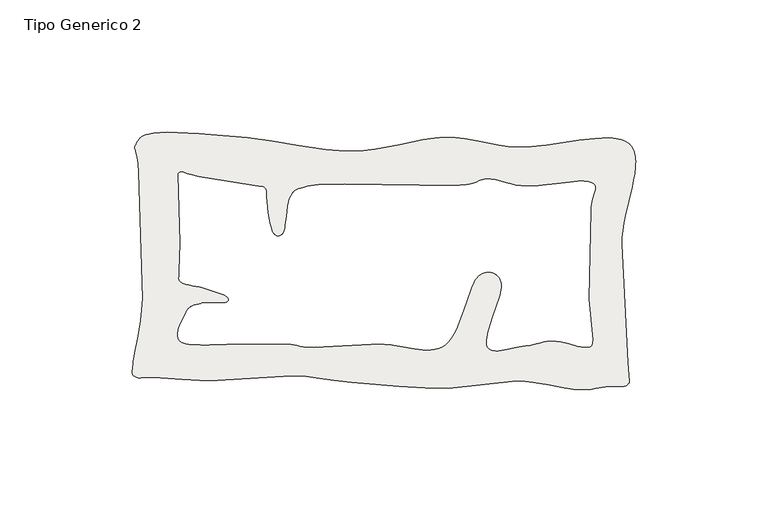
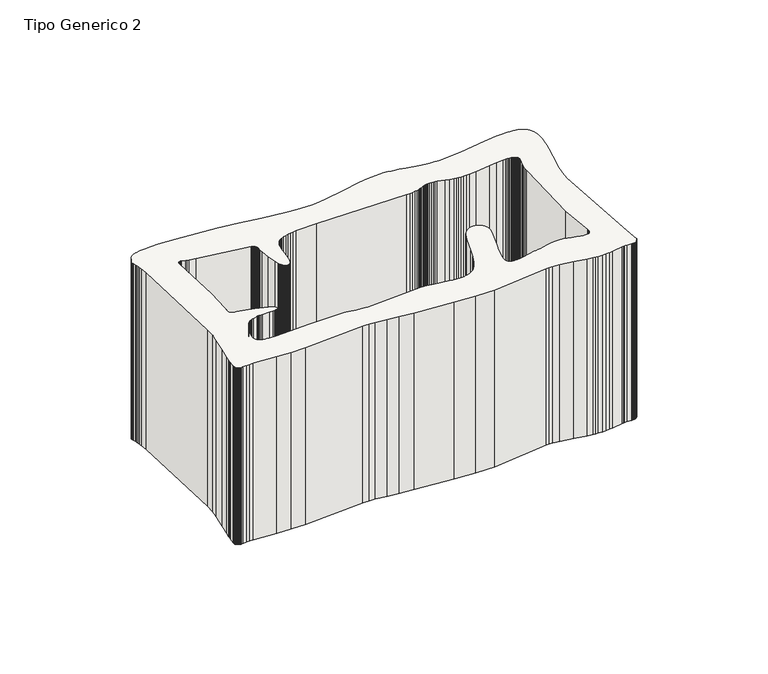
"""IFC4 building model written with IfcOpenShell, lengths in millimetres: slab geometry, Tipo Generico 2."""

from ifc_helpers import new_model, si_unit, frame, origin, place, context, project, spatial, polyline, outline, extrude, source, transform, mapped, element, save


def tipo_generico_2_deec6a79(model_context):
    return source(origin(), model_context, "Body", "SweptSolid", [
        extrude(outline(polyline([(-2062.3125941, -484.1455564), (-2062.3196146, -483.8131427), (-2062.3089325, -483.3984843), (-2062.1044655, -480.6890209), (-2061.997348, -479.7293946), (-2061.8410988, -478.7001892), (-2061.4108007, -476.4247987), (-2060.2764615, -470.9488766), (-2059.1561631, -464.130031), (-2058.7429535, -460.1760209), (-2058.5036956, -455.8371064), (-2059.9654882, -408.099565), (-2060.1806372, -404.9622061), (-2060.3240708, -403.7368869), (-2060.4821509, -402.7101236), (-2060.647557, -401.8591399), (-2060.8135714, -401.1611288), (-2061.1187467, -400.133027), (-2061.3418301, -399.4435218), (-2061.3778435, -399.3027226), (-2061.4046971, -399.168825), (-2061.4141567, -399.1035953), (-2061.4208716, -399.0390107), (-2061.4248388, -398.9747713), (-2061.4260612, -398.9104555), (-2061.4239248, -398.8457577), (-2061.4187352, -398.7802591), (-2061.4104951, -398.7136937), (-2061.3985935, -398.6456399), (-2061.3833359, -398.5757553), (-2061.3644138, -398.5036579), (-2061.3155849, -398.3515655), (-2061.2508899, -398.186465), (-2061.1694064, -398.0054957), (-2060.9539518, -397.5846205), (-2060.4626204, -396.6994571), (-2060.2129861, -396.2919324), (-2059.9471773, -395.9080213), (-2059.8052717, -395.7249552), (-2059.6557345, -395.5478399), (-2059.4970433, -395.3766725), (-2059.3279756, -395.2114957), (-2059.1476175, -395.0523488), (-2058.9544409, -394.8991868), (-2058.7472263, -394.7520548), (-2058.5247541, -394.6110264), (-2058.2858018, -394.476062), (-2058.0288443, -394.3471616), (-2057.7532703, -394.2244044), (-2057.457249, -394.1077509), (-2057.1398665, -393.9972774), (-2056.7995947, -393.8929075), (-2056.0458106, -393.7028209), (-2055.1861313, -393.5376073), (-2054.2104833, -393.3973797), (-2051.8710062, -393.1925675), (-2048.9501686, -393.1092561), (-2045.4910015, -393.1552214), (-2037.3595921, -393.5617925), (-2019.0646109, -395.1187614), (-2009.5962261, -396.4138519), (-1999.5556377, -398.1186404), (-1989.431735, -399.6009935), (-1984.4915505, -400.0612352), (-1979.7137188, -400.2288145), (-1977.3759196, -400.1709475), (-1975.0411709, -400.0118346), (-1970.3913624, -399.446193), (-1961.251195, -397.7194321), (-1952.474797, -395.9494506), (-1948.279851, -395.3298668), (-1946.2406651, -395.1356603), (-1944.2440518, -395.0373176), (-1942.3249547, -395.034304), (-1940.5056491, -395.1098734), (-1938.7701161, -395.253955), (-1937.1023285, -395.4564752), (-1933.9057669, -395.9962931), (-1930.7877856, -396.6485682), (-1924.2741125, -397.967196), (-1920.6219216, -398.4719174), (-1918.6410243, -398.6502551), (-1916.5353127, -398.7658023), (-1915.4137919, -398.7830463), (-1914.2262009, -398.7567247), (-1911.6747779, -398.5894114), (-1906.0174281, -397.908449), (-1893.6947372, -396.0611437), (-1887.720616, -395.4088686), (-1884.9316132, -395.2629958), (-1883.6054726, -395.2492238), (-1882.3322781, -395.2802371), (-1881.1172223, -395.3600029), (-1879.9657946, -395.4926017), (-1878.8833347, -395.6820402), (-1878.3697252, -395.7993022), (-1877.8753406, -395.9323226), (-1877.4009448, -396.0815146), (-1876.9471463, -396.2474159), (-1876.5147147, -396.4305584), (-1876.1040999, -396.6314401), (-1875.7163744, -396.8505196), (-1875.3518409, -397.0883287), (-1875.1785004, -397.2144022), (-1875.0112635, -397.3453626), (-1874.8502859, -397.481241), (-1874.6954091, -397.6221194), (-1874.4036606, -397.9175662), (-1874.1346487, -398.2299911), (-1873.8876063, -398.5591225), (-1873.6620837, -398.9044679), (-1873.4574611, -399.2657557), (-1873.2732886, -399.6425728), (-1873.1087993, -400.0346079), (-1872.9635349, -400.4414083), (-1872.8367341, -400.8626287), (-1872.7282442, -401.2979607), (-1872.6369984, -401.7469516), (-1872.5628409, -402.209293), (-1872.5048552, -402.6846027), (-1872.462741, -403.1725017), (-1872.4232217, -404.1846186), (-1872.4398546, -405.2426641), (-1872.5080612, -406.343698), (-1872.7802763, -408.6629571), (-1873.203404, -411.1188613), (-1873.7402083, -413.6877547), (-1876.2905616, -424.6215908), (-1876.8446072, -427.4015896), (-1877.2918437, -430.1530935), (-1877.5951882, -432.8524125), (-1877.6815528, -434.1751207), (-1877.7180217, -435.4759696), (-1875.3422285, -480.1126209), (-1875.01325, -484.8801129), (-1874.7605624, -486.9080452), (-1874.7353868, -487.1477615), (-1874.7309612, -487.2422501), (-1874.7309612, -487.2843274), (-1874.7324864, -487.323428), (-1874.7355396, -487.3598573), (-1874.740268, -487.3939605), (-1874.74683, -487.4260802), (-1874.75507, -487.4565219), (-1874.7598012, -487.4712476), (-1874.7651409, -487.4856676), (-1874.7770425, -487.5138201), (-1874.7909277, -487.5413218), (-1874.8067966, -487.5684839), (-1874.824649, -487.5956827), (-1874.8446379, -487.623224), (-1874.8911776, -487.6807514), (-1875.0115691, -487.8147226), (-1875.1714828, -487.9918775), (-1875.3744246, -488.2336538), (-1875.4319492, -488.3021631), (-1875.4917629, -488.3671665), (-1875.5538687, -488.4287347), (-1875.6181081, -488.4869469), (-1875.6846367, -488.5419191), (-1875.7534517, -488.593722), (-1875.8242531, -488.6424349), (-1875.8971909, -488.6881739), (-1875.9724151, -488.7309756), (-1876.0494729, -488.7709533), (-1876.12882, -488.8081466), (-1876.209995, -488.8427451), (-1876.3784515, -488.9042765), (-1876.5545396, -488.9561954), (-1876.7384065, -488.9992236), (-1876.9294467, -489.0340145), (-1877.12766, -489.0612897), (-1877.3327382, -489.0816974), (-1877.7628835, -489.1047763), (-1878.2182044, -489.1087067), (-1880.2566262, -489.0432081), (-1881.3824198, -489.0387061), (-1881.9660695, -489.0627385), (-1882.5613124, -489.1116807), (-1887.6104481, -489.9404994), (-1889.0897876, -490.1354304), (-1890.7232398, -490.2710428), (-1892.5440707, -490.3201774), (-1894.5863069, -490.2556324), (-1895.7020297, -490.1626293), (-1896.8821447, -490.0192353), (-1899.413426, -489.6120161), (-1905.0140124, -488.530971), (-1911.0503894, -487.5043577), (-1914.1264066, -487.1651951), (-1915.6605258, -487.0660884), (-1917.1848798, -487.0241271), (-1943.1542715, -489.9109378), (-1951.8423184, -489.6828939), (-1961.5583539, -489.0419489), (-1979.5757804, -487.5109197), (-1986.1306508, -486.8119521), (-1991.5499623, -486.0474123), (-1996.7010231, -485.4122257), (-1999.446995, -485.2041339), (-2002.451144, -485.101442), (-2030.2892815, -486.8420514), (-2036.9671354, -486.7381371), (-2043.6166105, -486.3950073), (-2054.3105804, -485.6996645), (-2056.0217017, -485.6568996), (-2057.3510483, -485.6810084), (-2059.133885, -485.8030044), (-2059.7219575, -485.8374501), (-2059.8489111, -485.8379085), (-2059.969761, -485.8341309), (-2060.0857269, -485.8255852), (-2060.1980313, -485.811816), (-2060.3072852, -485.7923224), (-2060.4147083, -485.7666119), (-2060.521823, -485.734147), (-2060.6289405, -485.6944749), (-2060.7375832, -485.6470579), (-2060.8486679, -485.5914774), (-2060.9631087, -485.5271248), (-2061.0824306, -485.4536154), (-2061.2008414, -485.380488), (-2061.3125345, -485.316707), (-2061.5170014, -485.2115731), (-2061.8505584, -485.0509746), (-2061.9189178, -485.0128645), (-2061.9509611, -484.9931445), (-2061.9814792, -484.9726972), (-2062.0107777, -484.9514095), (-2062.0385482, -484.9290947), (-2062.065099, -484.9055574), (-2062.0898163, -484.880611), (-2062.1136195, -484.8540601), (-2062.1358976, -484.8257916), (-2062.1569561, -484.7955423), (-2062.1764865, -484.7632302), (-2062.1947974, -484.7285949), (-2062.2115831, -484.6915148), (-2062.2274519, -484.6517663), (-2062.2417955, -484.6091938), (-2062.2549168, -484.5636076), (-2062.2668184, -484.5148579), (-2062.2869601, -484.4070924), (-2062.3022205, -484.284488), (-2062.3125941, -484.1455564)]), holes=[polyline([(-2013.5394022, -413.6066535), (-2013.6452981, -413.5955146), (-2037.2918436, -409.7385123), (-2040.1708719, -409.1612723), (-2041.0955545, -408.9363196), (-2041.7660257, -408.7455085), (-2043.2375833, -408.1988623), (-2043.3248636, -408.172808), (-2043.4130594, -408.1516745), (-2043.5015604, -408.1353095), (-2043.5900613, -408.1236365), (-2043.6785623, -408.1165793), (-2043.7667581, -408.1140235), (-2043.8540384, -408.1158545), (-2043.940098, -408.1220343), (-2044.0249368, -408.1324103), (-2044.1082498, -408.1469062), (-2044.1897317, -408.1654456), (-2044.2687723, -408.187876), (-2044.3453714, -408.2141593), (-2044.4195291, -408.244181), (-2044.4903299, -408.2778266), (-2044.5580789, -408.3150199), (-2044.6218606, -408.3556464), (-2044.6819803, -408.3996299), (-2044.7103616, -408.4228614), (-2044.7378274, -408.4468558), (-2044.7640726, -408.4716513), (-2044.7894022, -408.497248), (-2044.8132059, -408.5235694), (-2044.836094, -408.5506919), (-2044.8574564, -408.5785392), (-2044.877598, -408.6071112), (-2044.8965189, -408.63637), (-2044.9139139, -408.6663535), (-2044.929783, -408.6970237), (-2044.9444314, -408.7283805), (-2044.957554, -408.7604239), (-2044.9691507, -408.7931159), (-2044.9792215, -408.8264563), (-2044.9877664, -408.8604071), (-2044.9947855, -408.8949683), (-2044.9999734, -408.9301398), (-2045.0036356, -408.9659217), (-2045.0051614, -409.0022757), (-2045.0054666, -409.0392402), (-2045.0036356, -409.0767386), (-2044.9999734, -409.1147712), (-2044.9944803, -409.1533378), (-2044.9871561, -409.1924384), (-2044.9780008, -409.232035), (-2044.9667093, -409.2721656), (-2044.9532815, -409.3127539), (-2044.2364236, -434.9226859), (-2044.5745584, -445.6092551), (-2044.5705911, -446.0539725), (-2044.5858499, -446.4584449), (-2044.6511575, -447.1604255), (-2044.7271463, -447.743006), (-2044.7555276, -447.998133), (-2044.7707864, -448.2338431), (-2044.7713968, -448.3454993), (-2044.7668191, -448.4535697), (-2044.756138, -448.558512), (-2044.7482034, -448.6099341), (-2044.738743, -448.6607459), (-2044.7271463, -448.7109855), (-2044.7137186, -448.7607291), (-2044.6984598, -448.810015), (-2044.6807596, -448.8588813), (-2044.6612283, -448.9074042), (-2044.6392557, -448.955622), (-2044.6148416, -449.003649), (-2044.5879861, -449.0514472), (-2044.5586893, -449.0990928), (-2044.5266458, -449.1467002), (-2044.4921609, -449.1942695), (-2044.4546243, -449.2418769), (-2044.3710062, -449.3373587), (-2044.2754861, -449.4336417), (-2044.1668436, -449.5311454), (-2044.0450784, -449.6302512), (-2043.90897, -449.7314551), (-2043.757908, -449.8351386), (-2043.5906717, -449.9377539), (-2043.4066507, -450.0356009), (-2043.2070657, -450.1290229), (-2042.9925272, -450.2183249), (-2042.5222513, -450.3858283), (-2042.0025369, -450.5406669), (-2040.8425638, -450.8224585), (-2039.5681497, -451.0841086), (-2036.8948099, -451.6281226), (-2035.6063577, -451.9511512), (-2034.9981424, -452.1342948), (-2034.4234964, -452.3352912), (-2028.8931009, -454.0923026), (-2028.2381937, -454.3451789), (-2027.6379129, -454.6111396), (-2027.3626443, -454.7495749), (-2027.1062967, -454.8919394), (-2026.870701, -455.038462), (-2026.6573831, -455.1893332), (-2026.5597269, -455.2664664), (-2026.4681741, -455.344744), (-2026.3833353, -455.4242423), (-2026.3049051, -455.5049613), (-2026.2337991, -455.5869391), (-2026.169407, -455.6701758), (-2026.1126443, -455.7547477), (-2026.0870096, -455.7975104), (-2026.0632059, -455.8406165), (-2026.0415384, -455.8840659), (-2026.021702, -455.9278586), (-2026.0040018, -455.9719947), (-2025.9881326, -456.016474), (-2025.9743997, -456.0612967), (-2025.962803, -456.1065009), (-2025.9533426, -456.1520484), (-2025.9460184, -456.1979773), (-2025.9408304, -456.2442496), (-2025.9377786, -456.2909034), (-2025.9368631, -456.3379386), (-2025.938389, -456.3853553), (-2025.9420511, -456.4331153), (-2025.9481546, -456.4812949), (-2025.9563943, -456.5298179), (-2025.9673807, -456.5787604), (-2025.9801981, -456.6272071), (-2025.995762, -456.6742804), (-2026.0137674, -456.7199424), (-2026.033909, -456.7643073), (-2026.0561868, -456.8072989), (-2026.0809061, -456.8489936), (-2026.1077615, -456.8893912), (-2026.1370584, -456.92853), (-2026.1681863, -456.96641), (-2026.2017557, -457.003031), (-2026.2371561, -457.0384314), (-2026.2746927, -457.0726493), (-2026.3143655, -457.1056846), (-2026.3561746, -457.1375373), (-2026.3998147, -457.1682074), (-2026.4452859, -457.1978095), (-2026.5420267, -457.2536185), (-2026.6460916, -457.3051169), (-2026.7574808, -457.3524573), (-2026.8755838, -457.3957541), (-2027.0007059, -457.4351981), (-2027.1319314, -457.4709037), (-2027.412388, -457.5317099), (-2027.7154275, -457.5792792), (-2028.039219, -457.614794), (-2028.7399026, -457.6543143), (-2030.2981302, -457.6395133), (-2033.5928079, -457.4928763), (-2034.3594095, -457.4857047), (-2035.0707742, -457.5087455), (-2035.4009744, -457.5344947), (-2035.7113382, -457.5712684), (-2035.9994241, -457.6202109), (-2036.1349222, -457.6496222), (-2036.2640115, -457.6824668), (-2038.1319925, -458.1705954), (-2038.9581033, -458.4158423), (-2039.3450662, -458.5536292), (-2039.7149393, -458.7072471), (-2040.0680276, -458.8809302), (-2040.2383157, -458.9766028), (-2040.4046365, -459.078913), (-2040.56699, -459.1883567), (-2040.7250711, -459.3054679), (-2040.8791849, -459.4307807), (-2041.0293314, -459.5648291), (-2041.1755106, -459.7081473), (-2041.3180276, -459.8612693), (-2041.4562723, -460.0246909), (-2041.59116, -460.1990226), (-2041.7217752, -460.384722), (-2041.8487283, -460.5823615), (-2041.9720193, -460.792475), (-2042.0916482, -461.0155585), (-2043.3923074, -463.5435584), (-2044.1290018, -465.160456), (-2044.4656106, -466.0091117), (-2044.7604105, -466.8663886), (-2044.9987527, -467.7184775), (-2045.0918314, -468.1383231), (-2045.1650735, -468.5517218), (-2045.2163431, -468.9569953), (-2045.2438089, -469.3523887), (-2045.2459451, -469.7362235), (-2045.2367898, -469.9232962), (-2045.2203104, -470.1067832), (-2045.1965066, -470.2865699), (-2045.1653787, -470.4623511), (-2045.1263162, -470.6339743), (-2045.079014, -470.8012107), (-2045.023472, -470.9638694), (-2044.9593851, -471.1216452), (-2044.8864481, -471.2744239), (-2044.8046609, -471.4219764), (-2044.7134134, -471.5640357), (-2044.6127054, -471.7004111), (-2044.5022317, -471.8309119), (-2044.3816873, -471.9553092), (-2044.2510721, -472.0733741), (-2044.1100809, -472.1849158), (-2043.9584085, -472.2897055), (-2043.7954446, -472.3875525), (-2043.6202737, -472.4793341), (-2043.4313699, -472.566233), (-2043.2290384, -472.6483634), (-2043.0138895, -472.7258017), (-2042.546055, -472.86706), (-2042.0309183, -472.9910376), (-2041.4715311, -473.0985358), (-2040.8709451, -473.1905082), (-2039.5574686, -473.3314231), (-2036.5664407, -473.4665015), (-2033.24918, -473.4540274), (-2020.5520364, -473.0836585), (-2005.0472757, -472.9609778), (-2003.5436746, -473.0748847), (-2002.289097, -473.2499793), (-2000.0933572, -473.6914161), (-1998.9355203, -473.9116004), (-1997.5936624, -474.1006568), (-1995.9591409, -474.2355063), (-1993.9242288, -474.293032), (-1968.7002298, -473.1399253), (-1967.1389505, -473.1721213), (-1965.5474588, -473.2987311), (-1962.3054239, -473.7536719), (-1955.8076211, -474.9017432), (-1954.2265054, -475.1197913), (-1952.6786539, -475.2695945), (-1951.172001, -475.3308585), (-1950.4365274, -475.3219321), (-1949.7143289, -475.2832129), (-1949.0063211, -475.2122214), (-1948.3135721, -475.1064017), (-1947.63715, -474.9631598), (-1946.9779703, -474.7800162), (-1946.6550943, -474.6726706), (-1946.3369485, -474.554415), (-1946.023533, -474.4248679), (-1945.7151529, -474.2837622), (-1945.4116556, -474.1307929), (-1945.1134988, -473.9656165), (-1944.8205301, -473.7878898), (-1944.5330545, -473.5973456), (-1944.2509195, -473.3905509), (-1943.9736673, -473.164759), (-1943.7012979, -472.920542), (-1943.4336587, -472.6585486), (-1943.1705972, -472.3793891), (-1942.9122659, -472.0836737), (-1942.4087259, -471.4451697), (-1941.9222757, -470.7479956), (-1941.4521524, -469.9970725), (-1940.9972879, -469.1974357), (-1940.5570718, -468.3540442), (-1939.7170755, -466.5558341), (-1938.9257547, -464.6422294), (-1937.4628946, -460.6281379), (-1934.8338052, -452.9661277), (-1934.2004129, -451.3590339), (-1933.563511, -449.9548819), (-1933.2417032, -449.341326), (-1932.9165384, -448.7934592), (-1932.7525064, -448.5456946), (-1932.5872537, -448.3162024), (-1932.4209329, -448.1056311), (-1932.2530862, -447.914553), (-1931.9120523, -447.5695517), (-1931.5635416, -447.2585013), (-1931.2087747, -446.9806769), (-1930.8485147, -446.7355063), (-1930.4841348, -446.5222266), (-1930.3005716, -446.4273932), (-1930.116398, -446.3402655), (-1929.9317667, -446.2608054), (-1929.7466775, -446.1888984), (-1929.5614358, -446.1245063), (-1929.3760416, -446.0674765), (-1929.1906473, -446.0178092), (-1929.0054056, -445.9753898), (-1928.820469, -445.9401038), (-1928.6358377, -445.911875), (-1928.4518167, -445.8906653), (-1928.2685586, -445.8763602), (-1928.0860635, -445.8688834), (-1927.9044839, -445.8681586), (-1927.7239725, -445.8741095), (-1927.5448343, -445.8865836), (-1927.3669168, -445.9055808), (-1927.1905252, -445.9309867), (-1927.0158121, -445.962725), (-1926.84293, -446.0007193), (-1926.6717264, -446.0448554), (-1926.502659, -446.095095), (-1926.3358804, -446.1513236), (-1926.1712381, -446.213465), (-1926.0090372, -446.2814429), (-1925.8494302, -446.355181), (-1925.6925699, -446.4345649), (-1925.5386087, -446.5195563), (-1925.3873941, -446.6100028), (-1925.2395364, -446.7059043), (-1925.0947305, -446.8071463), (-1924.9534341, -446.9136145), (-1924.8154947, -447.0252707), (-1924.6813699, -447.1420005), (-1924.5509073, -447.2637275), (-1924.4244119, -447.3904136), (-1924.3018838, -447.5219062), (-1924.1836282, -447.6581672), (-1924.0696451, -447.7990821), (-1923.960087, -447.9446128), (-1923.7550088, -448.2491019), (-1923.5693094, -448.5709479), (-1923.4039041, -448.9094642), (-1923.2603189, -449.2640784), (-1923.1391641, -449.6340278), (-1923.041813, -450.0187018), (-1922.9693338, -450.4174521), (-1922.9453775, -450.6281379), (-1922.9331705, -450.8542731), (-1922.9324075, -451.0954383), (-1922.9424783, -451.351023), (-1922.994053, -451.90362), (-1923.0843851, -452.5079062), (-1923.3692667, -453.8554099), (-1923.7714883, -455.3608802), (-1926.0415384, -462.3099234), (-1927.2144815, -465.8837607), (-1928.1394693, -469.1756156), (-1928.4447977, -470.6342414), (-1928.5470315, -471.3024237), (-1928.6114236, -471.9244483), (-1928.6283609, -472.2168448), (-1928.634617, -472.4961951), (-1928.6297342, -472.7619269), (-1928.6134073, -473.0135825), (-1928.5851785, -473.2506659), (-1928.5447427, -473.4725669), (-1928.5197183, -473.5777381), (-1928.4916421, -473.6789039), (-1928.4600564, -473.776026), (-1928.4252664, -473.8690665), (-1928.3874246, -473.9586356), (-1928.3469888, -474.0454963), (-1928.3036539, -474.1296103), (-1928.2577249, -474.211016), (-1928.209202, -474.2897895), (-1928.1582376, -474.3659308), (-1928.1045267, -474.4394782), (-1928.0483743, -474.5104697), (-1927.9897806, -474.5789435), (-1927.9287454, -474.6448996), (-1927.8652689, -474.7084143), (-1927.7993509, -474.7694495), (-1927.7312967, -474.8281195), (-1927.6608011, -474.8843863), (-1927.5880167, -474.9383262), (-1927.513096, -474.989939), (-1927.3566934, -475.0863746), (-1927.1918985, -475.17396), (-1927.0188638, -475.2529242), (-1926.8378946, -475.3235343), (-1926.649296, -475.3860572), (-1926.4535257, -475.4406836), (-1926.2505838, -475.4876807), (-1926.040928, -475.5273536), (-1925.602543, -475.5856421), (-1925.1405069, -475.6174949), (-1924.6571085, -475.6249335), (-1924.1549417, -475.610018), (-1923.1023904, -475.5210212), (-1922.0011636, -475.3665641), (-1917.4758646, -474.4160941), (-1915.396702, -473.9664176), (-1914.4669839, -473.804293), (-1914.0376016, -473.7459281), (-1913.6347696, -473.7053779), (-1912.8783914, -473.6295417), (-1912.1601602, -473.5287192), (-1910.8207437, -473.2692435), (-1908.3996316, -472.6385215), (-1907.243931, -472.3357108), (-1906.0755655, -472.0868018), (-1905.4751321, -471.9932654), (-1904.8577615, -471.9260123), (-1904.2185709, -471.8893912), (-1903.5531351, -471.8875602), (-1902.8516885, -471.9298652), (-1902.112095, -472.0180991), (-1901.3419839, -472.1453956), (-1900.5483743, -472.3050025), (-1897.2875711, -473.1294349), (-1894.2391702, -473.9238074), (-1893.5653421, -474.0664771), (-1892.9414102, -474.1730979), (-1892.6504251, -474.2107489), (-1892.3745462, -474.2368796), (-1892.1149942, -474.2505362), (-1891.8723794, -474.2509559), (-1890.3483316, -474.2121985), (-1890.0646707, -474.1840461), (-1889.9354288, -474.1634467), (-1889.8144266, -474.1376212), (-1889.7012064, -474.1058448), (-1889.6474954, -474.0874961), (-1889.5954629, -474.0674308), (-1889.5452615, -474.0455726), (-1889.4968912, -474.0217688), (-1889.4500467, -473.9959815), (-1889.4050333, -473.9680961), (-1889.3615457, -473.9380744), (-1889.319584, -473.905802), (-1889.2791482, -473.8712027), (-1889.2403909, -473.834162), (-1889.2028543, -473.7946418), (-1889.1669961, -473.7525275), (-1889.1323587, -473.7077048), (-1889.0990945, -473.6601737), (-1889.0670511, -473.6097815), (-1889.0362283, -473.5564521), (-1889.0067789, -473.500109), (-1888.9783975, -473.440676), (-1888.9249918, -473.3121589), (-1888.8758585, -473.170214), (-1888.8305398, -473.0141929), (-1888.7888834, -472.8433707), (-1888.7147256, -472.4547294), (-1888.5949441, -471.4701178), (-1890.1736185, -456.1122229), (-1889.4025918, -422.9201987), (-1889.3380472, -421.6035941), (-1889.2030069, -420.4054358), (-1889.0144083, -419.3183997), (-1888.7891885, -418.3353522), (-1887.8625223, -415.2975943), (-1887.709324, -414.7255423), (-1887.6562234, -414.4626716), (-1887.6365396, -414.3365958), (-1887.621586, -414.2139914), (-1887.6118204, -414.0947059), (-1887.6075479, -413.9785865), (-1887.6089212, -413.8655951), (-1887.6160928, -413.7556174), (-1887.6296731, -413.6485007), (-1887.6496622, -413.5441306), (-1887.6621744, -413.4929755), (-1887.676365, -413.4424308), (-1887.6923868, -413.3925345), (-1887.710087, -413.3432486), (-1887.7296182, -413.2945731), (-1887.7511331, -413.2465079), (-1887.7743265, -413.1989768), (-1887.7996561, -413.152056), (-1887.8268167, -413.1056311), (-1887.855961, -413.0597785), (-1887.8870889, -413.0144599), (-1887.9203531, -412.969599), (-1887.9931375, -412.8814032), (-1888.0744668, -412.7950385), (-1888.1646463, -412.7104285), (-1888.263981, -412.6274588), (-1888.3726236, -412.5460151), (-1888.4910318, -412.4659446), (-1888.6193582, -412.3871711), (-1888.757908, -412.3095801), (-1889.0665933, -412.15745), (-1889.4190713, -412.0086768), (-1889.6137735, -411.9384482), (-1889.822056, -411.8751624), (-1890.043461, -411.8185523), (-1890.2779886, -411.7684272), (-1890.78397, -411.6869834), (-1891.3369485, -411.629267), (-1891.9337198, -411.5937522), (-1892.5713846, -411.5789893), (-1893.9568826, -411.6054633), (-1897.0827981, -411.8400672), (-1900.5178567, -412.2358802), (-1907.5298807, -413.1219962), (-1910.7137796, -413.4179023), (-1912.1391031, -413.4865668), (-1913.4208414, -413.4860709), (-1914.590275, -413.4216407), (-1915.698826, -413.3110526), (-1916.7519876, -413.1611731), (-1917.755253, -412.9788306), (-1919.6334573, -412.5442984), (-1921.3769266, -412.0623877), (-1924.6333047, -411.1759284), (-1925.4310342, -411.010485), (-1926.2330362, -410.881243), (-1927.0449564, -410.7950309), (-1927.8719827, -410.7587531), (-1928.6459085, -410.7747748), (-1928.9902994, -410.8004859), (-1929.3102762, -410.8369544), (-1929.6087381, -410.8834937), (-1929.8885843, -410.9393027), (-1930.1527139, -411.0036567), (-1930.4041788, -411.0758307), (-1930.8801004, -411.2404731), (-1931.3400003, -411.4273551), (-1932.3048135, -411.8436149), (-1932.8562662, -412.0610144), (-1933.4850809, -412.2766211), (-1934.214451, -412.4844458), (-1935.0678751, -412.6784613), (-1936.0683939, -412.8526786), (-1937.2396585, -413.0011466), (-1938.6047098, -413.1178), (-1940.1871988, -413.196688), (-1982.235386, -412.6149085), (-1992.065098, -412.8937247), (-1993.5549661, -413.0378821), (-1994.8623392, -413.2274726), (-1996.0891458, -413.4702018), (-1997.3373147, -413.7738898), (-1998.5137674, -414.096308), (-1999.4805643, -414.4118979), (-1999.896824, -414.5774176), (-2000.2743265, -414.7535804), (-2000.4501077, -414.846926), (-2000.6176492, -414.9444297), (-2000.7781717, -415.0467017), (-2000.9316751, -415.1541617), (-2001.079075, -415.2673819), (-2001.2206766, -415.3868201), (-2001.3570901, -415.5130484), (-2001.4892313, -415.6465628), (-2001.6170999, -415.7878592), (-2001.7419168, -415.9374335), (-2001.8636819, -416.0958579), (-2001.9833108, -416.2635901), (-2002.2182962, -416.6291526), (-2002.4508401, -417.0381644), (-2002.9281351, -418.0031302), (-2003.047764, -418.2855323), (-2003.1594583, -418.595896), (-2003.2635232, -418.9321616), (-2003.3608743, -419.2923453), (-2003.5369607, -420.0764182), (-2003.6907693, -420.9319404), (-2004.1662332, -424.7467139), (-2004.6029397, -428.4168723), (-2004.7350809, -429.191027), (-2004.8843118, -429.8755744), (-2004.9664041, -430.1792624), (-2005.0542947, -430.4544928), (-2005.1482889, -430.699282), (-2005.1977273, -430.8096412), (-2005.2489969, -430.9116462), (-2005.3561136, -431.1007026), (-2005.4690286, -431.2769416), (-2005.5871316, -431.4403632), (-2005.7104227, -431.5909293), (-2005.8379861, -431.728678), (-2005.9698221, -431.8534949), (-2006.0372659, -431.9110968), (-2006.1053201, -431.9654181), (-2006.174595, -432.0165732), (-2006.2444803, -432.0644477), (-2006.3149759, -432.1091178), (-2006.386387, -432.1505072), (-2006.4584085, -432.1886924), (-2006.5310403, -432.223635), (-2006.6042825, -432.2553351), (-2006.6778299, -432.2837546), (-2006.7519876, -432.3089698), (-2006.8264505, -432.3308661), (-2006.9015237, -432.3495581), (-2006.9769022, -432.3649695), (-2007.0522806, -432.3771384), (-2007.1279642, -432.3860267), (-2007.2039529, -432.3916724), (-2007.2799417, -432.3940375), (-2007.3559305, -432.393122), (-2007.4322244, -432.3889258), (-2007.5082132, -432.3814872), (-2007.5845071, -432.3707297), (-2007.6601907, -432.3567298), (-2007.7361795, -432.3394111), (-2007.8115579, -432.3188117), (-2007.8869363, -432.2949317), (-2007.9620096, -432.267771), (-2008.0364725, -432.2372916), (-2008.1109354, -432.2035315), (-2008.1844827, -432.1664527), (-2008.2580301, -432.1260932), (-2008.3306619, -432.082453), (-2008.4026834, -432.035456), (-2008.4743997, -431.9851783), (-2008.6150857, -431.8746665), (-2008.75272, -431.7508796), (-2008.8869974, -431.6138556), (-2009.0170022, -431.4634803), (-2009.1430398, -431.2997535), (-2009.2641946, -431.1227134), (-2009.3804666, -430.9323218), (-2009.4909402, -430.7285025), (-2009.5956155, -430.5112937), (-2009.6981546, -430.266352), (-2009.801304, -429.9812034), (-2010.0091287, -429.3015387), (-2010.4223367, -427.5827887), (-2011.1660501, -423.3324912), (-2011.6656229, -419.1888526), (-2011.7733499, -417.6033881), (-2011.7825052, -417.0103934), (-2011.775181, -416.773577), (-2011.7590066, -416.5802863), (-2011.742222, -416.4118293), (-2011.731846, -416.2477973), (-2011.7281839, -416.0882285), (-2011.7309305, -415.9331229), (-2011.7397806, -415.7825568), (-2011.7547342, -415.6366065), (-2011.7754861, -415.4952338), (-2011.8017313, -415.3585532), (-2011.8334695, -415.2265647), (-2011.870701, -415.0993445), (-2011.9128152, -414.9769309), (-2011.9601175, -414.8593619), (-2012.0116922, -414.7467139), (-2012.0681497, -414.6389487), (-2012.1288797, -414.5362189), (-2012.193577, -414.4384864), (-2012.2625467, -414.3458274), (-2012.3351785, -414.2583182), (-2012.4111673, -414.1759589), (-2012.4908182, -414.0987876), (-2012.573826, -414.0268805), (-2012.6595804, -413.9602759), (-2012.7483865, -413.8990119), (-2012.8399393, -413.8431266), (-2012.9336282, -413.7926963), (-2013.0300638, -413.747721), (-2013.1283304, -413.708277), (-2013.2287332, -413.6744025), (-2013.3306619, -413.6461356), (-2013.4344217, -413.6235526), (-2013.5394022, -413.6066535)])]), frame((0.0, 0.0, -88.0), z_axis=(0.0, 0.0, 1.0), x_axis=(1.0, 0.0, 0.0)), (0.0, 0.0, 1.0), 88.0),
    ])


if __name__ == "__main__":
    model = new_model("IFC4")
    model_context = context("Model", 3, world=origin())
    ifc_project = project(units=[si_unit("LENGTHUNIT", "METRE", prefix="MILLI")], contexts=[model_context])
    site = spatial("IfcSite", under=ifc_project)
    building = spatial("IfcBuilding", under=site)
    placement = place(None, origin())
    tipo_generico_2_shape = tipo_generico_2_deec6a79(model_context)
    element("IfcSlab", 1, ObjectType="Tipo Generico 2", at=placement, inside=building, context=model_context, shape_type="MappedRepresentation", body=[
        mapped(tipo_generico_2_shape, transform((0.0, 0.0, 0.0), x_axis=(1.0, 0.0, 0.0), y_axis=(0.0, 1.0, 0.0), z_axis=(0.0, 0.0, 1.0))),
    ])
    save(model, "model.ifc")
